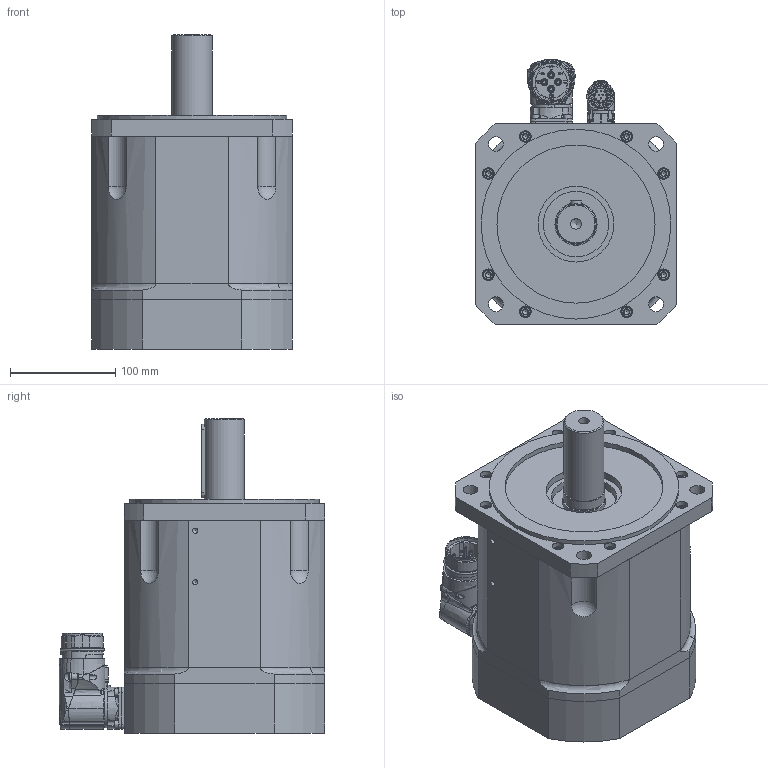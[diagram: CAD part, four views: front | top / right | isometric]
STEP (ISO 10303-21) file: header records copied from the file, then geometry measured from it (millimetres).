
FILE_DESCRIPTION(/* description */ (''),/* implementation_level */ '2;1');
FILE_NAME(/* name */ 'C:\Users\Public\Documents\Autodesk\Inventor LT 2014\Workspace\Motori Sito WEB\TG_6\STEP_DSM5_6x\DSM5_62_x099.stp',/* time_stamp */ '2021-03-31T14:20:09+02:00',/* author */ ('marcor'),/* organization */ (''),/* preprocessor_version */ 'ST-DEVELOPER v15.2',/* originating_system */ 'Autodesk Inventor LT ',/* authorisation */ '');
FILE_SCHEMA (('AUTOMOTIVE_DESIGN { 1 0 10303 214 3 1 1 }'));
Products named in the file (1): DSM5_62_x099
Bounding box: 190 x 251.55 x 298 mm (x, y, z)
Volume: 7086860 mm3; surface area: 482152.3 mm2
Topology: 24 solids, 31 shells, 1840 faces, 4736 edges, 3096 vertices
Faces by surface type: plane 798, cylinder 393, cone 388, bspline 137, torus 103, sphere 21
Full cylindrical faces by diameter (mm): 1.2 x12, 2 x2, 2.224 x4, 2.5 x4, 2.88 x4, 3.26 x4, 3.6 x5, 4 x5, 4.5 x1, 4.8 x4, 4.917 x24, 5.4 x1, 5.5 x1, 5.9 x1, 6 x20, 6.5 x20, 7 x4, 8 x3, 8.5 x1, 10 x20, 10.106 x1, 11 x20, 14 x4, 15.2 x1, 17.4 x2, 18 x1, 20 x1, 21.15 x2, 21.653 x1, 24.3 x1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
Entity records: 61110 total; most frequent: CARTESIAN_POINT 18589, ORIENTED_EDGE 8310, DIRECTION 8038, EDGE_CURVE 4155, AXIS2_PLACEMENT_3D 3189, VERTEX_POINT 2947, EDGE_LOOP 2472, ADVANCED_FACE 1840
